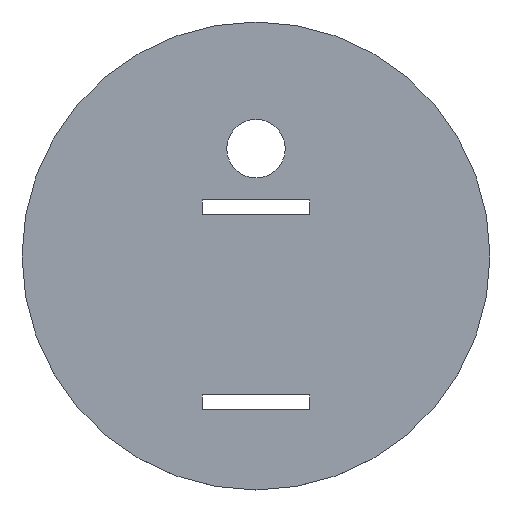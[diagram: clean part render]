
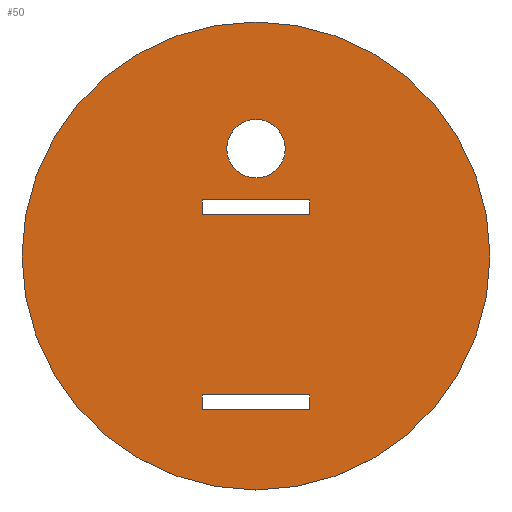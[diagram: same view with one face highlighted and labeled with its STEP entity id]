
A CAD part, top view. The second image highlights one B-rep face of the part: STEP entity #50.
In plain terms, the highlighted planar face has unit normal (0, 0, 1).
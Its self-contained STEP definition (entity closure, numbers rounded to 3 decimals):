
#21 = EDGE_CURVE('',#22,#22,#24,.T.);
#22 = VERTEX_POINT('',#23);
#23 = CARTESIAN_POINT('',(48.,0.,28.));
#24 = CIRCLE('',#25,48.);
#25 = AXIS2_PLACEMENT_3D('',#26,#27,#28);
#26 = CARTESIAN_POINT('',(0.,0.,28.));
#27 = DIRECTION('',(0.,0.,1.));
#28 = DIRECTION('',(1.,0.,0.));
#50 = ADVANCED_FACE('',(#51,#54,#88,#122),#133,.T.);
#51 = FACE_BOUND('',#52,.T.);
#52 = EDGE_LOOP('',(#53));
#53 = ORIENTED_EDGE('',*,*,#21,.T.);
#54 = FACE_BOUND('',#55,.T.);
#55 = EDGE_LOOP('',(#56,#66,#74,#82));
#56 = ORIENTED_EDGE('',*,*,#57,.T.);
#57 = EDGE_CURVE('',#58,#60,#62,.T.);
#58 = VERTEX_POINT('',#59);
#59 = CARTESIAN_POINT('',(11.,-31.5,28.));
#60 = VERTEX_POINT('',#61);
#61 = CARTESIAN_POINT('',(-11.,-31.5,28.));
#62 = LINE('',#63,#64);
#63 = CARTESIAN_POINT('',(-5.5,-31.5,28.));
#64 = VECTOR('',#65,1.);
#65 = DIRECTION('',(-1.,0.,0.));
#66 = ORIENTED_EDGE('',*,*,#67,.T.);
#67 = EDGE_CURVE('',#60,#68,#70,.T.);
#68 = VERTEX_POINT('',#69);
#69 = CARTESIAN_POINT('',(-11.,-28.5,28.));
#70 = LINE('',#71,#72);
#71 = CARTESIAN_POINT('',(-11.,-15.75,28.));
#72 = VECTOR('',#73,1.);
#73 = DIRECTION('',(0.,1.,0.));
#74 = ORIENTED_EDGE('',*,*,#75,.F.);
#75 = EDGE_CURVE('',#76,#68,#78,.T.);
#76 = VERTEX_POINT('',#77);
#77 = CARTESIAN_POINT('',(11.,-28.5,28.));
#78 = LINE('',#79,#80);
#79 = CARTESIAN_POINT('',(-5.5,-28.5,28.));
#80 = VECTOR('',#81,1.);
#81 = DIRECTION('',(-1.,0.,0.));
#82 = ORIENTED_EDGE('',*,*,#83,.F.);
#83 = EDGE_CURVE('',#58,#76,#84,.T.);
#84 = LINE('',#85,#86);
#85 = CARTESIAN_POINT('',(11.,-15.75,28.));
#86 = VECTOR('',#87,1.);
#87 = DIRECTION('',(0.,1.,0.));
#88 = FACE_BOUND('',#89,.T.);
#89 = EDGE_LOOP('',(#90,#100,#108,#116));
#90 = ORIENTED_EDGE('',*,*,#91,.T.);
#91 = EDGE_CURVE('',#92,#94,#96,.T.);
#92 = VERTEX_POINT('',#93);
#93 = CARTESIAN_POINT('',(11.,8.5,28.));
#94 = VERTEX_POINT('',#95);
#95 = CARTESIAN_POINT('',(-11.,8.5,28.));
#96 = LINE('',#97,#98);
#97 = CARTESIAN_POINT('',(-5.5,8.5,28.));
#98 = VECTOR('',#99,1.);
#99 = DIRECTION('',(-1.,0.,0.));
#100 = ORIENTED_EDGE('',*,*,#101,.T.);
#101 = EDGE_CURVE('',#94,#102,#104,.T.);
#102 = VERTEX_POINT('',#103);
#103 = CARTESIAN_POINT('',(-11.,11.5,28.));
#104 = LINE('',#105,#106);
#105 = CARTESIAN_POINT('',(-11.,4.25,28.));
#106 = VECTOR('',#107,1.);
#107 = DIRECTION('',(0.,1.,0.));
#108 = ORIENTED_EDGE('',*,*,#109,.F.);
#109 = EDGE_CURVE('',#110,#102,#112,.T.);
#110 = VERTEX_POINT('',#111);
#111 = CARTESIAN_POINT('',(11.,11.5,28.));
#112 = LINE('',#113,#114);
#113 = CARTESIAN_POINT('',(-5.5,11.5,28.));
#114 = VECTOR('',#115,1.);
#115 = DIRECTION('',(-1.,0.,0.));
#116 = ORIENTED_EDGE('',*,*,#117,.F.);
#117 = EDGE_CURVE('',#92,#110,#118,.T.);
#118 = LINE('',#119,#120);
#119 = CARTESIAN_POINT('',(11.,4.25,28.));
#120 = VECTOR('',#121,1.);
#121 = DIRECTION('',(0.,1.,0.));
#122 = FACE_BOUND('',#123,.T.);
#123 = EDGE_LOOP('',(#124));
#124 = ORIENTED_EDGE('',*,*,#125,.F.);
#125 = EDGE_CURVE('',#126,#126,#128,.T.);
#126 = VERTEX_POINT('',#127);
#127 = CARTESIAN_POINT('',(6.,22.,28.));
#128 = CIRCLE('',#129,6.);
#129 = AXIS2_PLACEMENT_3D('',#130,#131,#132);
#130 = CARTESIAN_POINT('',(0.,22.,28.));
#131 = DIRECTION('',(0.,0.,1.));
#132 = DIRECTION('',(1.,0.,0.));
#133 = PLANE('',#134);
#134 = AXIS2_PLACEMENT_3D('',#135,#136,#137);
#135 = CARTESIAN_POINT('',(0.,0.,28.));
#136 = DIRECTION('',(0.,0.,1.));
#137 = DIRECTION('',(1.,0.,0.));
